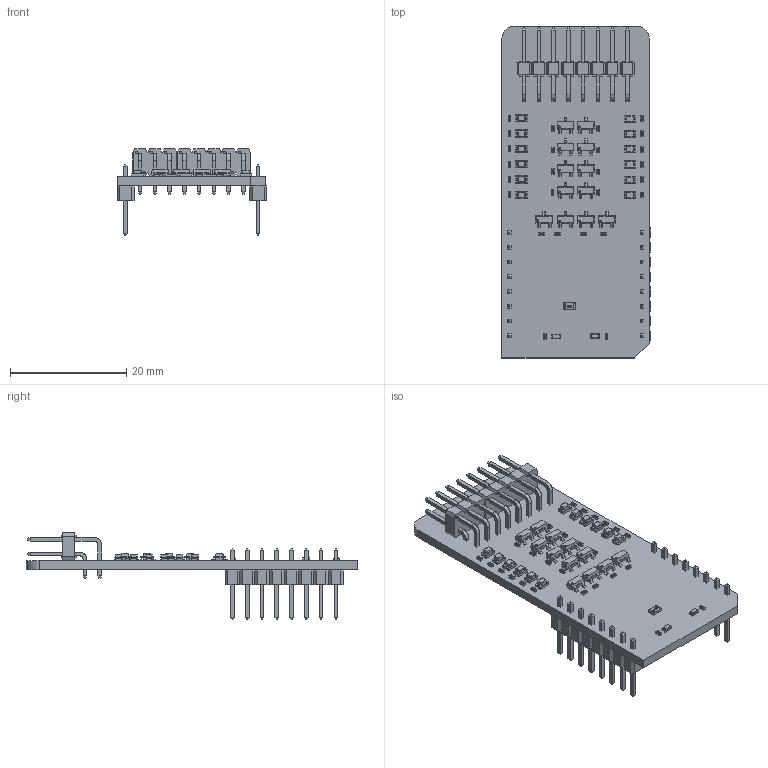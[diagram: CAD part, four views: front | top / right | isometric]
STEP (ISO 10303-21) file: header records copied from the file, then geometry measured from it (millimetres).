
FILE_DESCRIPTION(('Open CASCADE Model'),'2;1');
FILE_NAME('Open CASCADE Shape Model','2026-02-10T11:31:37',('Author'),( 'Open CASCADE'),'Open CASCADE STEP processor 6.8','Open CASCADE 6.8' ,'Unknown');
FILE_SCHEMA(('AUTOMOTIVE_DESIGN { 1 0 10303 214 1 1 1 1 }'));
Length unit declared in the file: millimetre
Products named in the file (521): PCB; Board; MBD1; Header_1x8; Free-Models; 1240637040; User_Library-PinHeaderX5-1_PinHeaderX5_Body_1; User_Library-PinHeaderX5-1_PinHeaderX5_Pins_1; J1; Scene1; 68021-x10; Part3; R28; User_Library-R_0402; R27; R26; R25; R24; R23; R22; R21; R20; R19; R18; R17; R16; R15; R14; R13; R12; R11; R10; R9; R8; R29; R7; R6; R5; LD14; LED_ORANGE_0805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
Assembly tree (570 placements, depth 7):
  PCB
    Board
    MBD1
      Header_1x8  x2
        PCB
          Free-Models
            1240637040  x2
              User_Library-PinHeaderX5-1_PinHeaderX5_Body_1
              User_Library-PinHeaderX5-1_PinHeaderX5_Pins_1
    J1
      Scene1
        PCB
          Free-Models
            68021-x10
            68021-x10
            68021-x10
            68021-x10
            68021-x10
            68021-x10
            68021-x10
            68021-x10
            68021-x10
            68021-x10
            68021-x10
            68021-x10
            68021-x10
            68021-x10
            68021-x10
            68021-x10
            68021-x10
            68021-x10
            68021-x10
            68021-x10
            68021-x10
            68021-x10
            68021-x10
            68021-x10
            68021-x10
            68021-x10
            68021-x10
            68021-x10
            68021-x10
            68021-x10
            68021-x10
            68021-x10
            68021-x10
            68021-x10
            68021-x10
            68021-x10
            68021-x10
            68021-x10
            68021-x10
            68021-x10
            68021-x10
            68021-x10
            68021-x10
            68021-x10
            68021-x10
            68021-x10
            68021-x10
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Bounding box: 25.78 x 57.15 x 14.94 mm (x, y, z)
Volume: 2850.2 mm3; surface area: 5979.8 mm2
Topology: 144 solids, 590 shells, 4806 faces, 12974 edges, 9073 vertices
Faces by surface type: plane 3612, bspline 718, cylinder 396, sphere 80
Entity records: 55069 total; most frequent: CARTESIAN_POINT 16480, ORIENTED_EDGE 4354, DIRECTION 4004, EDGE_CURVE 3151, VERTEX_POINT 2722, B_SPLINE_CURVE_WITH_KNOTS 2082, AXIS2_PLACEMENT_3D 1509, PRODUCT_DEFINITION_SHAPE 1091
